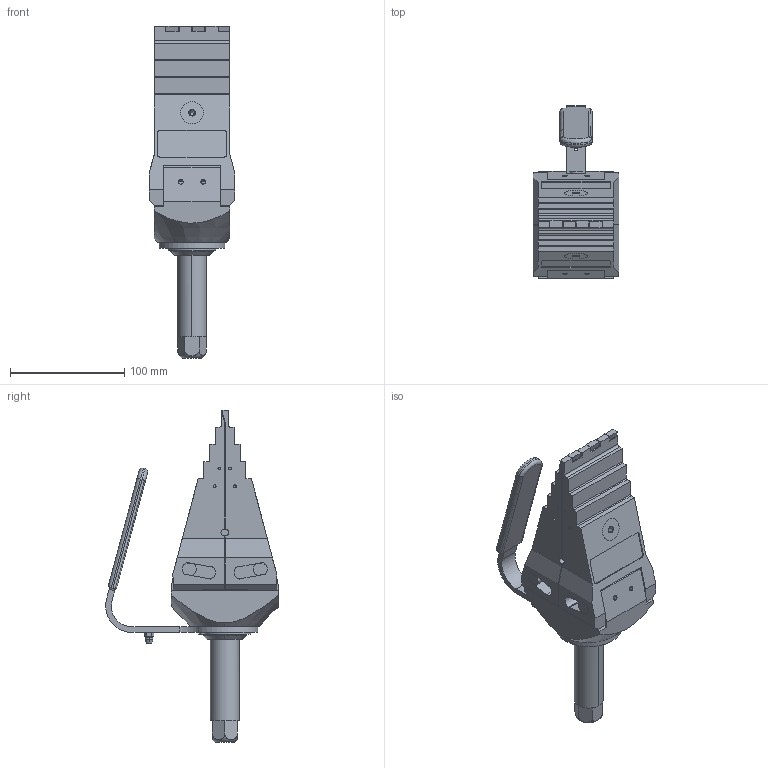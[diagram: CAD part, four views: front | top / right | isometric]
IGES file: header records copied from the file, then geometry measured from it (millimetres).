
Start section:  PTC IGES file: FSM-8.igs
Global section: file name: FSM-8.igs; native system: Creo Parametric by PTC Inc.; preprocessor: 2015290; author: mike.ward; organization: Unknown; date: 20151216.154643; units: inch
Bounding box: 75.11 x 150.79 x 289.98 mm (x, y, z)
Volume: 729430.3 mm3; surface area: 160912.2 mm2
Topology: 1 solids, 1 shells, 549 faces, 1480 edges, 948 vertices
Faces by surface type: bspline 290, revolution 259
